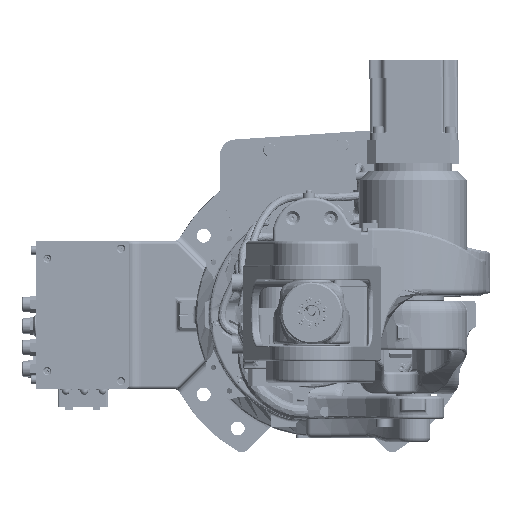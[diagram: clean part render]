
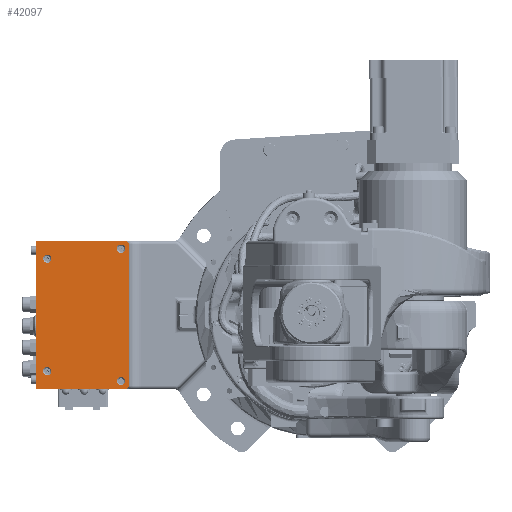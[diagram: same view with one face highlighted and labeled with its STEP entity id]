
A CAD part, top view. The second image highlights one B-rep face of the part: STEP entity #42097.
In plain terms, the highlighted planar face has unit normal (0, 0, 1).
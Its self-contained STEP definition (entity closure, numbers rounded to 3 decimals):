
#3393 = CARTESIAN_POINT ( 'NONE',  ( 15.122, 74.286, 175.643 ) ) ;
#5401 = DIRECTION ( 'NONE',  ( 1., 0., 0. ) ) ;
#14248 = CARTESIAN_POINT ( 'NONE',  ( 17.122, 72.286, 175.643 ) ) ;
#37405 = FACE_BOUND ( 'NONE', #212104, .T. ) ;
#37971 = AXIS2_PLACEMENT_3D ( 'NONE', #397551, #38660, #186875 ) ;
#37990 = CARTESIAN_POINT ( 'NONE',  ( -43.378, 72.286, 175.643 ) ) ;
#38660 = DIRECTION ( 'NONE',  ( 0., 0., 1. ) ) ;
#42097 = ADVANCED_FACE ( 'NONE', ( #37405, #365075, #183281, #439291, #152188 ), #254920, .F. ) ;
#42219 = DIRECTION ( 'NONE',  ( 0., 0., -1. ) ) ;
#46195 = CIRCLE ( 'NONE', #451154, 2.7 ) ;
#47806 = AXIS2_PLACEMENT_3D ( 'NONE', #233133, #275957, #197255 ) ;
#49709 = CARTESIAN_POINT ( 'NONE',  ( -43.378, 72.286, 175.643 ) ) ;
#54300 = ORIENTED_EDGE ( 'NONE', *, *, #308236, .F. ) ;
#54821 = VERTEX_POINT ( 'NONE', #351244 ) ;
#56565 = EDGE_LOOP ( 'NONE', ( #54300, #160332 ) ) ;
#57585 = ORIENTED_EDGE ( 'NONE', *, *, #238626, .T. ) ;
#68448 = VERTEX_POINT ( 'NONE', #200615 ) ;
#77691 = DIRECTION ( 'NONE',  ( 0., 0., 1. ) ) ;
#78225 = CIRCLE ( 'NONE', #47806, 2.7 ) ;
#80468 = VERTEX_POINT ( 'NONE', #251894 ) ;
#82574 = DIRECTION ( 'NONE',  ( 0., 0., 1. ) ) ;
#86231 = CARTESIAN_POINT ( 'NONE',  ( 15.122, 166.466, 175.643 ) ) ;
#96084 = VERTEX_POINT ( 'NONE', #171723 ) ;
#98406 = DIRECTION ( 'NONE',  ( 1., 0., 0. ) ) ;
#98990 = CARTESIAN_POINT ( 'NONE',  ( 14.822, 163.469, 175.643 ) ) ;
#99614 = VERTEX_POINT ( 'NONE', #140908 ) ;
#103046 = DIRECTION ( 'NONE',  ( 0., -1., 0. ) ) ;
#106013 = VERTEX_POINT ( 'NONE', #176039 ) ;
#107020 = CARTESIAN_POINT ( 'NONE',  ( -35.878, 83.786, 175.643 ) ) ;
#113412 = CIRCLE ( 'NONE', #449419, 2. ) ;
#121390 = EDGE_LOOP ( 'NONE', ( #350574, #307979 ) ) ;
#123139 = CARTESIAN_POINT ( 'NONE',  ( -35.878, 156.969, 175.643 ) ) ;
#124125 = VERTEX_POINT ( 'NONE', #374467 ) ;
#125581 = EDGE_CURVE ( 'NONE', #403725, #352722, #375178, .T. ) ;
#125862 = EDGE_CURVE ( 'NONE', #124125, #106013, #450480, .T. ) ;
#129448 = CARTESIAN_POINT ( 'NONE',  ( 12.122, 77.286, 175.643 ) ) ;
#134852 = EDGE_CURVE ( 'NONE', #80468, #183013, #137925, .T. ) ;
#137925 = CIRCLE ( 'NONE', #321211, 2.7 ) ;
#139608 = VECTOR ( 'NONE', #334974, 1000. ) ;
#140071 = EDGE_CURVE ( 'NONE', #193039, #338577, #352760, .T. ) ;
#140908 = CARTESIAN_POINT ( 'NONE',  ( 9.422, 77.286, 175.643 ) ) ;
#146037 = DIRECTION ( 'NONE',  ( 0., 0., 1. ) ) ;
#149948 = AXIS2_PLACEMENT_3D ( 'NONE', #223151, #333227, #5401 ) ;
#152188 = FACE_OUTER_BOUND ( 'NONE', #296725, .T. ) ;
#154749 = EDGE_CURVE ( 'NONE', #183013, #80468, #401949, .T. ) ;
#160332 = ORIENTED_EDGE ( 'NONE', *, *, #365851, .F. ) ;
#171723 = CARTESIAN_POINT ( 'NONE',  ( -33.178, 83.786, 175.643 ) ) ;
#173342 = CARTESIAN_POINT ( 'NONE',  ( -43.378, 168.466, 175.643 ) ) ;
#176039 = CARTESIAN_POINT ( 'NONE',  ( -38.578, 156.969, 175.643 ) ) ;
#181113 = DIRECTION ( 'NONE',  ( 1., 0., 0. ) ) ;
#181471 = DIRECTION ( 'NONE',  ( 1., 0., 0. ) ) ;
#183013 = VERTEX_POINT ( 'NONE', #98990 ) ;
#183281 = FACE_BOUND ( 'NONE', #121390, .T. ) ;
#186875 = DIRECTION ( 'NONE',  ( 1., 0., 0. ) ) ;
#188005 = DIRECTION ( 'NONE',  ( -1., 0., 0. ) ) ;
#193039 = VERTEX_POINT ( 'NONE', #218265 ) ;
#197255 = DIRECTION ( 'NONE',  ( 1., 0., 0. ) ) ;
#198768 = VECTOR ( 'NONE', #103046, 1000. ) ;
#200615 = CARTESIAN_POINT ( 'NONE',  ( 17.122, 74.286, 175.643 ) ) ;
#201148 = DIRECTION ( 'NONE',  ( 0., 0., 1. ) ) ;
#205388 = ORIENTED_EDGE ( 'NONE', *, *, #414555, .T. ) ;
#212104 = EDGE_LOOP ( 'NONE', ( #388384, #357600 ) ) ;
#215377 = LINE ( 'NONE', #284667, #198768 ) ;
#217280 = EDGE_CURVE ( 'NONE', #96084, #300245, #431521, .T. ) ;
#218265 = CARTESIAN_POINT ( 'NONE',  ( 15.122, 168.466, 175.643 ) ) ;
#223151 = CARTESIAN_POINT ( 'NONE',  ( 12.122, 163.469, 175.643 ) ) ;
#226971 = EDGE_CURVE ( 'NONE', #106013, #124125, #460109, .T. ) ;
#228643 = CARTESIAN_POINT ( 'NONE',  ( 17.122, 166.466, 175.643 ) ) ;
#231488 = AXIS2_PLACEMENT_3D ( 'NONE', #3393, #77691, #256795 ) ;
#233133 = CARTESIAN_POINT ( 'NONE',  ( 12.122, 77.286, 175.643 ) ) ;
#237277 = VECTOR ( 'NONE', #372814, 1000. ) ;
#238626 = EDGE_CURVE ( 'NONE', #338577, #403725, #215377, .T. ) ;
#251894 = CARTESIAN_POINT ( 'NONE',  ( 9.422, 163.469, 175.643 ) ) ;
#253483 = CARTESIAN_POINT ( 'NONE',  ( 12.122, 163.469, 175.643 ) ) ;
#253555 = AXIS2_PLACEMENT_3D ( 'NONE', #123139, #82574, #446119 ) ;
#254920 = PLANE ( 'NONE',  #467274 ) ;
#256795 = DIRECTION ( 'NONE',  ( -1., 0., 0. ) ) ;
#272645 = ORIENTED_EDGE ( 'NONE', *, *, #354102, .T. ) ;
#275957 = DIRECTION ( 'NONE',  ( 0., 0., 1. ) ) ;
#284667 = CARTESIAN_POINT ( 'NONE',  ( -43.378, 72.286, 175.643 ) ) ;
#286272 = AXIS2_PLACEMENT_3D ( 'NONE', #437449, #360902, #181471 ) ;
#286939 = ORIENTED_EDGE ( 'NONE', *, *, #125581, .T. ) ;
#296725 = EDGE_LOOP ( 'NONE', ( #272645, #205388, #332506, #57585, #286939, #419391 ) ) ;
#297404 = EDGE_CURVE ( 'NONE', #300245, #96084, #414157, .T. ) ;
#300245 = VERTEX_POINT ( 'NONE', #381607 ) ;
#307979 = ORIENTED_EDGE ( 'NONE', *, *, #297404, .F. ) ;
#308236 = EDGE_CURVE ( 'NONE', #54821, #99614, #78225, .T. ) ;
#308853 = EDGE_LOOP ( 'NONE', ( #468161, #421107 ) ) ;
#321211 = AXIS2_PLACEMENT_3D ( 'NONE', #253483, #146037, #98406 ) ;
#325515 = LINE ( 'NONE', #14248, #139608 ) ;
#332506 = ORIENTED_EDGE ( 'NONE', *, *, #140071, .T. ) ;
#333227 = DIRECTION ( 'NONE',  ( 0., 0., 1. ) ) ;
#334974 = DIRECTION ( 'NONE',  ( 0., 1., 0. ) ) ;
#338577 = VERTEX_POINT ( 'NONE', #173342 ) ;
#342019 = DIRECTION ( 'NONE',  ( 0., 0., 1. ) ) ;
#350393 = DIRECTION ( 'NONE',  ( -1., 0., 0. ) ) ;
#350574 = ORIENTED_EDGE ( 'NONE', *, *, #217280, .F. ) ;
#351244 = CARTESIAN_POINT ( 'NONE',  ( 14.822, 77.286, 175.643 ) ) ;
#352722 = VERTEX_POINT ( 'NONE', #358120 ) ;
#352760 = LINE ( 'NONE', #458164, #465748 ) ;
#354102 = EDGE_CURVE ( 'NONE', #68448, #469174, #325515, .T. ) ;
#357600 = ORIENTED_EDGE ( 'NONE', *, *, #134852, .F. ) ;
#358120 = CARTESIAN_POINT ( 'NONE',  ( 15.122, 72.286, 175.643 ) ) ;
#360902 = DIRECTION ( 'NONE',  ( 0., 0., 1. ) ) ;
#361202 = CIRCLE ( 'NONE', #231488, 2. ) ;
#365075 = FACE_BOUND ( 'NONE', #308853, .T. ) ;
#365851 = EDGE_CURVE ( 'NONE', #99614, #54821, #46195, .T. ) ;
#369866 = CARTESIAN_POINT ( 'NONE',  ( 0., 0., 175.643 ) ) ;
#372814 = DIRECTION ( 'NONE',  ( 1., 0., 0. ) ) ;
#374467 = CARTESIAN_POINT ( 'NONE',  ( -33.178, 156.969, 175.643 ) ) ;
#375178 = LINE ( 'NONE', #37990, #237277 ) ;
#378031 = DIRECTION ( 'NONE',  ( -1., 0., 0. ) ) ;
#381607 = CARTESIAN_POINT ( 'NONE',  ( -38.578, 83.786, 175.643 ) ) ;
#386152 = EDGE_CURVE ( 'NONE', #352722, #68448, #361202, .T. ) ;
#388384 = ORIENTED_EDGE ( 'NONE', *, *, #154749, .F. ) ;
#397551 = CARTESIAN_POINT ( 'NONE',  ( -35.878, 156.969, 175.643 ) ) ;
#401949 = CIRCLE ( 'NONE', #149948, 2.7 ) ;
#403725 = VERTEX_POINT ( 'NONE', #49709 ) ;
#414157 = CIRCLE ( 'NONE', #444519, 2.7 ) ;
#414555 = EDGE_CURVE ( 'NONE', #469174, #193039, #113412, .T. ) ;
#419391 = ORIENTED_EDGE ( 'NONE', *, *, #386152, .T. ) ;
#421107 = ORIENTED_EDGE ( 'NONE', *, *, #226971, .F. ) ;
#423584 = DIRECTION ( 'NONE',  ( 1., 0., 0. ) ) ;
#431521 = CIRCLE ( 'NONE', #286272, 2.7 ) ;
#437449 = CARTESIAN_POINT ( 'NONE',  ( -35.878, 83.786, 175.643 ) ) ;
#439291 = FACE_BOUND ( 'NONE', #56565, .T. ) ;
#444519 = AXIS2_PLACEMENT_3D ( 'NONE', #107020, #470772, #181113 ) ;
#446119 = DIRECTION ( 'NONE',  ( 1., 0., 0. ) ) ;
#449419 = AXIS2_PLACEMENT_3D ( 'NONE', #86231, #342019, #378031 ) ;
#450480 = CIRCLE ( 'NONE', #37971, 2.7 ) ;
#451154 = AXIS2_PLACEMENT_3D ( 'NONE', #129448, #201148, #423584 ) ;
#458164 = CARTESIAN_POINT ( 'NONE',  ( -43.378, 168.466, 175.643 ) ) ;
#460109 = CIRCLE ( 'NONE', #253555, 2.7 ) ;
#465748 = VECTOR ( 'NONE', #350393, 1000. ) ;
#467274 = AXIS2_PLACEMENT_3D ( 'NONE', #369866, #42219, #188005 ) ;
#468161 = ORIENTED_EDGE ( 'NONE', *, *, #125862, .F. ) ;
#469174 = VERTEX_POINT ( 'NONE', #228643 ) ;
#470772 = DIRECTION ( 'NONE',  ( 0., 0., 1. ) ) ;
